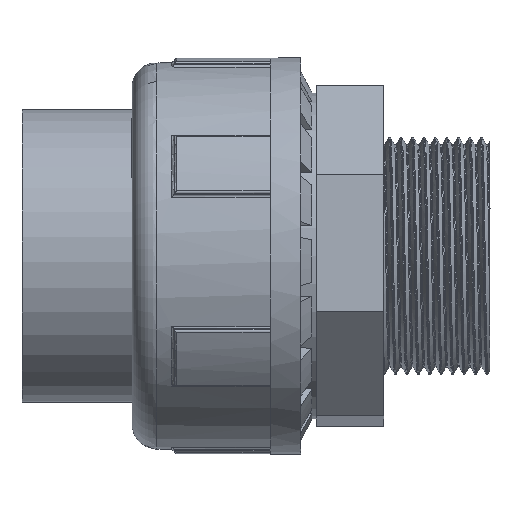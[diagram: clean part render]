
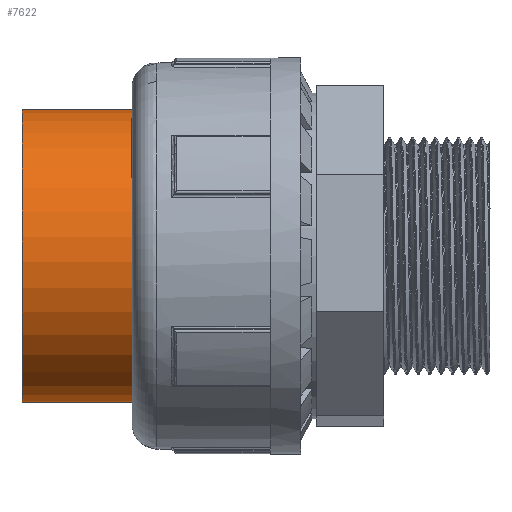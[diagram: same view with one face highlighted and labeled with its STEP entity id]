
A CAD part, front view. The second image highlights one B-rep face of the part: STEP entity #7622.
In plain terms, the highlighted cylindrical face has radius 29.5 mm (diameter 59 mm), a full revolution.
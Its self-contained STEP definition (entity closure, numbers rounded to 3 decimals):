
#2172=FACE_BOUND('',#2729,.T.);
#2249=FACE_OUTER_BOUND('',#2728,.T.);
#2728=EDGE_LOOP('',(#5433));
#2729=EDGE_LOOP('',(#5434));
#3172=CIRCLE('',#8180,29.5);
#3173=CIRCLE('',#8182,29.5);
#3427=VERTEX_POINT('',#20840);
#3428=VERTEX_POINT('',#20843);
#4196=EDGE_CURVE('',#3427,#3427,#3172,.T.);
#4197=EDGE_CURVE('',#3428,#3428,#3173,.T.);
#5433=ORIENTED_EDGE('',*,*,#4197,.F.);
#5434=ORIENTED_EDGE('',*,*,#4196,.T.);
#7527=CYLINDRICAL_SURFACE('',#8181,29.5);
#7622=ADVANCED_FACE('',(#2249,#2172),#7527,.T.);
#8180=AXIS2_PLACEMENT_3D('',#20841,#8920,#8921);
#8181=AXIS2_PLACEMENT_3D('',#20842,#8922,#8923);
#8182=AXIS2_PLACEMENT_3D('',#20844,#8924,#8925);
#8920=DIRECTION('center_axis',(-1.,0.,0.));
#8921=DIRECTION('ref_axis',(0.,0.,1.));
#8922=DIRECTION('center_axis',(-1.,0.,0.));
#8923=DIRECTION('ref_axis',(0.,-1.,0.));
#8924=DIRECTION('center_axis',(-1.,0.,0.));
#8925=DIRECTION('ref_axis',(0.,0.,1.));
#20840=CARTESIAN_POINT('',(26.5,-29.5,0.));
#20841=CARTESIAN_POINT('Origin',(26.5,0.,0.));
#20842=CARTESIAN_POINT('Origin',(13.25,0.,0.));
#20843=CARTESIAN_POINT('',(0.,-29.5,0.));
#20844=CARTESIAN_POINT('Origin',(0.,0.,0.));
